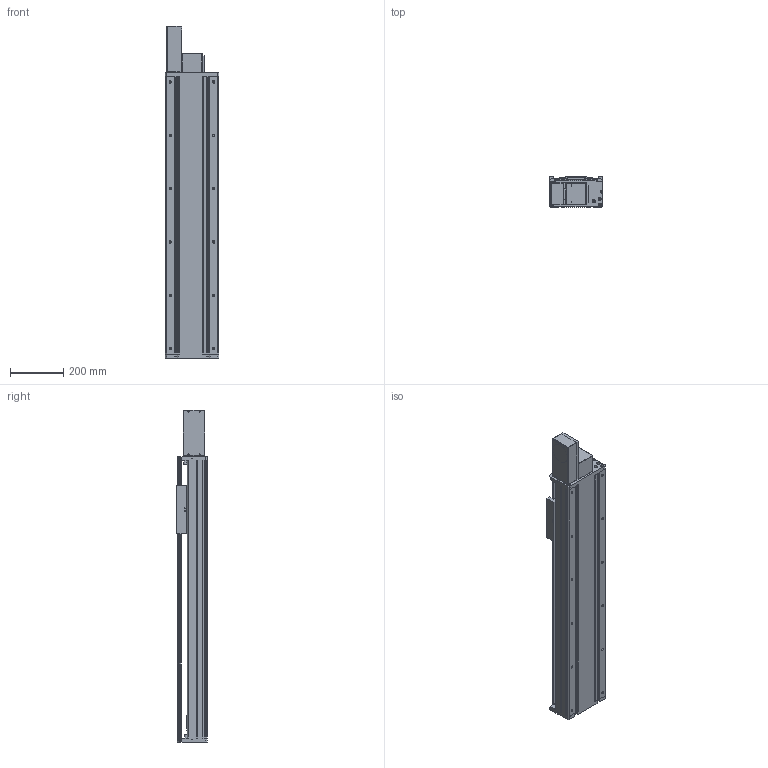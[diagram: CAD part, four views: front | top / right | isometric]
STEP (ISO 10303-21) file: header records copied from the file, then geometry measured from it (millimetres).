
FILE_DESCRIPTION(/* description */ (''),/* implementation_level */ '2;1');
FILE_NAME(/* name */ 'TKB200-FR-800_asm1.stp',/* time_stamp */ '2016-05-18T11:39:45+08:00',/* author */ (''),/* organization */ (''),/* preprocessor_version */ 'ST-DEVELOPER v15',/* originating_system */ 'SIEMENS PLM Software NX 8.5',/* authorisation */ '');
FILE_SCHEMA (('AUTOMOTIVE_DESIGN { 1 0 10303 214 3 1 1 1 }'));
Length unit declared in the file: millimetre
Products named in the file (3): 200-2; 200-1; TKB200-FR-800_asm1
Assembly tree (2 placements, depth 2):
  TKB200-FR-800_asm1
    200-1
    200-2
Bounding box: 200 x 115 x 1245 mm (x, y, z)
Volume: 7416365.6 mm3; surface area: 2286621.1 mm2
Topology: 2 solids, 3 shells, 1014 faces, 2867 edges, 1844 vertices
Faces by surface type: plane 469, cylinder 459, cone 70, bspline 16
Full cylindrical faces by diameter (mm): 2.5 x2, 3.3 x16, 4.3 x4, 4.5 x8, 5 x2, 6.6 x34, 6.8 x8, 8 x6, 9 x20, 10 x4, 11 x22, 12 x16, 14 x12, 75 x1
Entity records: 34397 total; most frequent: CARTESIAN_POINT 8919, DIRECTION 5232, ORIENTED_EDGE 5100, EDGE_CURVE 2550, AXIS2_PLACEMENT_3D 1895, VERTEX_POINT 1754, LINE 1442, VECTOR 1442
